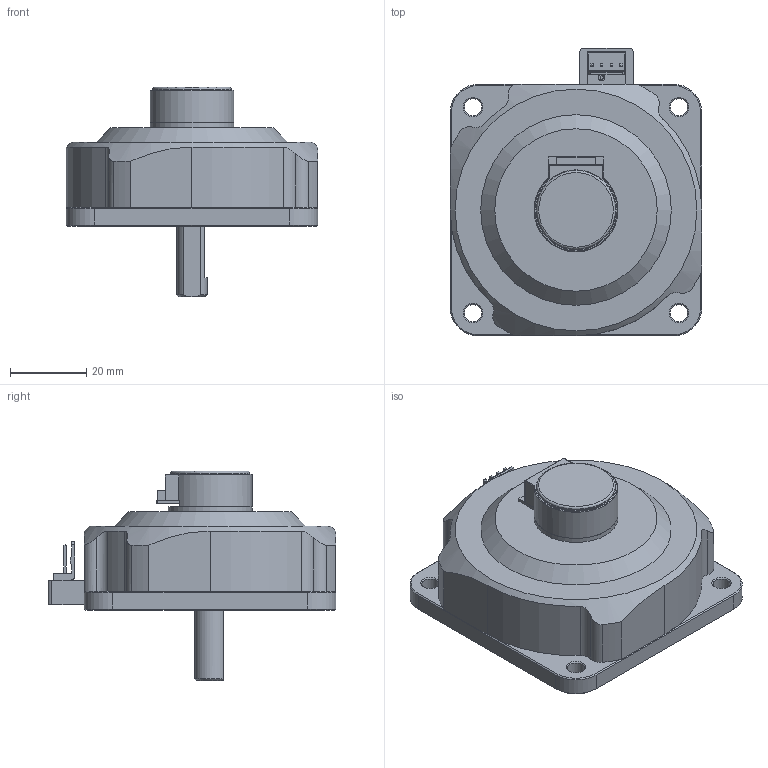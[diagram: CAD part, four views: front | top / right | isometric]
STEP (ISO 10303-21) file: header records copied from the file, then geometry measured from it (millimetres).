
FILE_DESCRIPTION (( 'STEP AP214' ), '1' );
FILE_NAME ('Assem_PSM60N_ET_2024_Ver6_Provide.STEP', '2024-10-28T02:45:06', ( '' ), ( '' ), 'SwSTEP 2.0', 'SolidWorks 2024', '' );
FILE_SCHEMA (( 'AUTOMOTIVE_DESIGN' ));
Length unit declared in the file: millimetre
Products named in the file (21): Terminal_Plate_Ver1.2; 6800_Ceramic; Terminal_Cover_Ver2.1; PSM60_SN_Shaft_F8_F6_Ver2.3_Plus_Main; Molex_5045_Pin; AS22_Base; Assem_PSM60N_ET_2024_Ver6_Provide; Assem_Molex_5045_04A; AS22_Board; Molex_5045_04A_Base; 6800ZZ_14; 6800ZZ_17; +teitou_M2.6-6_KJ; PSM60_SN_Shaft_F8_F6_Ver2.3_Plus_Sub; PSM60_Non_Magnetic_Base_Ver3.8; 6800ZZ_19; AS22_Cover; +sara_M3-12_KJ; Assem_AS22; 6800ZZ_3; PSM60_Case_Ver3.3
Assembly tree (41 placements, depth 3):
  Assem_PSM60N_ET_2024_Ver6_Provide
    PSM60_SN_Shaft_F8_F6_Ver2.3_Plus_Main
    Terminal_Plate_Ver1.2
    PSM60_Case_Ver3.3
    +teitou_M2.6-6_KJ  x6
    +sara_M3-12_KJ  x4
    Assem_Molex_5045_04A
      Molex_5045_04A_Base
      Molex_5045_Pin  x4
    Terminal_Cover_Ver2.1
    6800_Ceramic
      6800ZZ_3  x10
      6800ZZ_14  x2
      6800ZZ_17
      6800ZZ_19
    PSM60_SN_Shaft_F8_F6_Ver2.3_Plus_Sub
    PSM60_Non_Magnetic_Base_Ver3.8
    Assem_AS22
      AS22_Base
      AS22_Cover
      AS22_Board
Bounding box: 66 x 75.5 x 55 mm (x, y, z)
Volume: 48073.6 mm3; surface area: 36219.2 mm2
Topology: 42 solids, 42 shells, 779 faces, 1984 edges, 1285 vertices
Faces by surface type: plane 439, cylinder 201, cone 83, sphere 22, bspline 18, torus 16
Full cylindrical faces by diameter (mm): 0.161 x4, 0.5 x4, 0.9 x1, 1.6 x1, 1.7 x1, 2.1 x1, 2.2 x12, 2.6 x10, 2.7 x2, 2.8 x3, 3 x5, 3.2 x5, 3.4 x1, 4 x1, 4.5 x4, 6 x5, 6.5 x4, 7 x1, 7.4 x1, 8 x1, 10 x3, 12 x1, 19 x2, 20 x1, 20.2 x1, 20.6 x1, 22 x2, 26 x2, 41.1 x1, 62 x1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
Entity records: 17529 total; most frequent: CARTESIAN_POINT 3029, DIRECTION 2728, ORIENTED_EDGE 2378, EDGE_CURVE 1189, AXIS2_PLACEMENT_3D 1022, VERTEX_POINT 833, EDGE_LOOP 740, LINE 684
